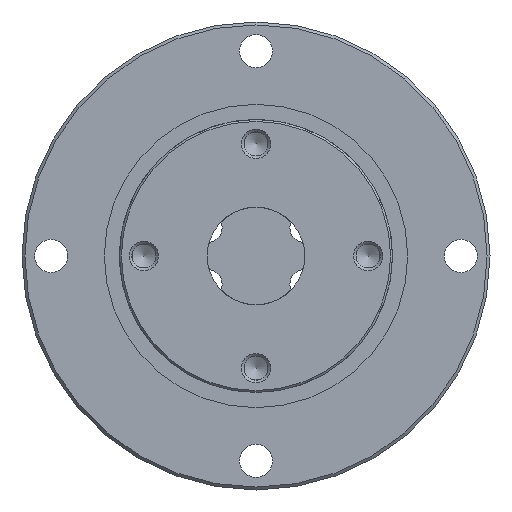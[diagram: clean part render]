
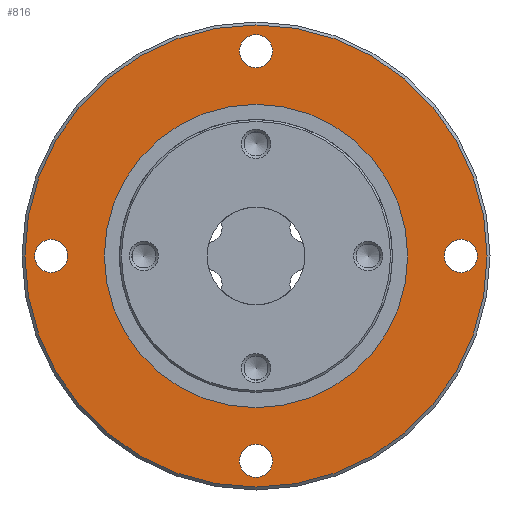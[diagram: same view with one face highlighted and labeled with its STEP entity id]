
A CAD part, left-side view. The second image highlights one B-rep face of the part: STEP entity #816.
In plain terms, the highlighted planar face has unit normal (-1, 0, 0).
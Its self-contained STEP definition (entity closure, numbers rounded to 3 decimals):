
#69=PLANE('',#934);
#201=ORIENTED_EDGE('',*,*,#355,.F.);
#202=ORIENTED_EDGE('',*,*,#356,.F.);
#203=ORIENTED_EDGE('',*,*,#357,.F.);
#204=ORIENTED_EDGE('',*,*,#358,.F.);
#205=ORIENTED_EDGE('',*,*,#359,.F.);
#206=ORIENTED_EDGE('',*,*,#354,.T.);
#354=EDGE_CURVE('',#436,#436,#505,.T.);
#355=EDGE_CURVE('',#437,#437,#506,.T.);
#356=EDGE_CURVE('',#438,#438,#507,.F.);
#357=EDGE_CURVE('',#439,#439,#508,.F.);
#358=EDGE_CURVE('',#440,#440,#509,.F.);
#359=EDGE_CURVE('',#441,#441,#510,.F.);
#436=VERTEX_POINT('',#1445);
#437=VERTEX_POINT('',#1448);
#438=VERTEX_POINT('',#1450);
#439=VERTEX_POINT('',#1452);
#440=VERTEX_POINT('',#1454);
#441=VERTEX_POINT('',#1456);
#505=CIRCLE('',#933,15.556);
#506=CIRCLE('',#935,23.7);
#507=CIRCLE('',#936,1.7);
#508=CIRCLE('',#937,1.7);
#509=CIRCLE('',#938,1.7);
#510=CIRCLE('',#939,1.7);
#574=EDGE_LOOP('',(#201));
#575=EDGE_LOOP('',(#202));
#576=EDGE_LOOP('',(#203));
#577=EDGE_LOOP('',(#204));
#578=EDGE_LOOP('',(#205));
#579=EDGE_LOOP('',(#206));
#686=FACE_BOUND('',#574,.T.);
#687=FACE_BOUND('',#575,.T.);
#688=FACE_BOUND('',#576,.T.);
#689=FACE_BOUND('',#577,.T.);
#690=FACE_BOUND('',#578,.T.);
#691=FACE_BOUND('',#579,.T.);
#816=ADVANCED_FACE('',(#686,#687,#688,#689,#690,#691),#69,.F.);
#933=AXIS2_PLACEMENT_3D('',#1444,#1133,#1134);
#934=AXIS2_PLACEMENT_3D('',#1446,#1135,#1136);
#935=AXIS2_PLACEMENT_3D('',#1447,#1137,#1138);
#936=AXIS2_PLACEMENT_3D('',#1449,#1139,#1140);
#937=AXIS2_PLACEMENT_3D('',#1451,#1141,#1142);
#938=AXIS2_PLACEMENT_3D('',#1453,#1143,#1144);
#939=AXIS2_PLACEMENT_3D('',#1455,#1145,#1146);
#1133=DIRECTION('',(1.,0.,0.));
#1134=DIRECTION('',(0.,0.,-1.));
#1135=DIRECTION('',(1.,0.,0.));
#1136=DIRECTION('',(0.,0.,-1.));
#1137=DIRECTION('',(1.,0.,0.));
#1138=DIRECTION('',(0.,0.,-1.));
#1139=DIRECTION('',(1.,0.,0.));
#1140=DIRECTION('',(0.,0.,-1.));
#1141=DIRECTION('',(1.,0.,0.));
#1142=DIRECTION('',(0.,0.,-1.));
#1143=DIRECTION('',(1.,0.,0.));
#1144=DIRECTION('',(0.,0.,-1.));
#1145=DIRECTION('',(1.,0.,0.));
#1146=DIRECTION('',(0.,0.,-1.));
#1444=CARTESIAN_POINT('',(9.,0.,0.));
#1445=CARTESIAN_POINT('',(9.,0.,-15.556));
#1446=CARTESIAN_POINT('',(9.,15.556,0.));
#1447=CARTESIAN_POINT('',(9.,0.,0.));
#1448=CARTESIAN_POINT('',(9.,0.,-23.7));
#1449=CARTESIAN_POINT('',(9.,21.,0.));
#1450=CARTESIAN_POINT('',(9.,21.,-1.7));
#1451=CARTESIAN_POINT('',(9.,0.,21.));
#1452=CARTESIAN_POINT('',(9.,0.,19.3));
#1453=CARTESIAN_POINT('',(9.,-21.,0.));
#1454=CARTESIAN_POINT('',(9.,-21.,-1.7));
#1455=CARTESIAN_POINT('',(9.,0.,-21.));
#1456=CARTESIAN_POINT('',(9.,0.,-22.7));
